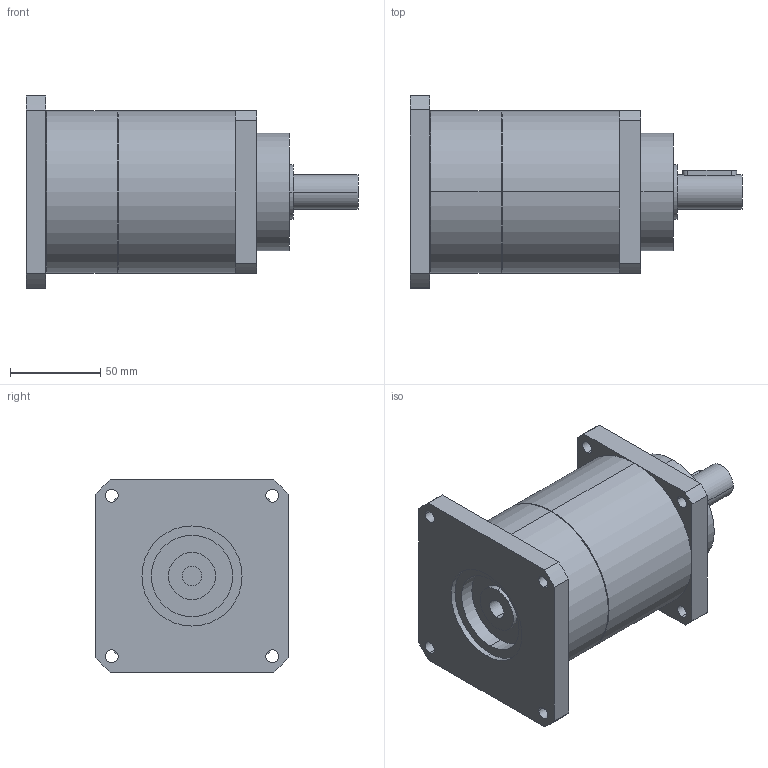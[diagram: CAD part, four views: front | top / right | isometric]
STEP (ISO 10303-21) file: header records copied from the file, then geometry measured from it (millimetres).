
FILE_DESCRIPTION(('CoCreate Modeling STEP Export'),'2;1');
FILE_NAME('GPT90_ig-9-12-16-20-25-28-35-40-50-70-100_19_B5T_11_P02.stp','2015-02-04T11:24:01',(''),(''),'CoCreate Modeling STEP processor for AP214 (Solid Model)','CoCreate Modeling 16.00C 25-Feb-2009 (C) Parametric Technology GmbH','');
FILE_SCHEMA(('AUTOMOTIVE_DESIGN { 1 0 10303 214 1 1 1 1 }'));
Length unit declared in the file: millimetre
Products named in the file (2): GPT90_ig-9-12-16-20-25-28-35-40-50-70-100_19_B5T_11_P02
Assembly tree (1 placements, depth 2):
  GPT90_ig-9-12-16-20-25-28-35-40-50-70-100_19_B5T_11_P02
    GPT90_ig-9-12-16-20-25-28-35-40-50-70-100_19_B5T_11_P02
Bounding box: 184 x 106.5 x 106.5 mm (x, y, z)
Volume: 934048.4 mm3; surface area: 75584.5 mm2
Topology: 1 solids, 1 shells, 77 faces, 206 edges, 141 vertices
Faces by surface type: cylinder 46, plane 27, cone 4
Entity records: 2596 total; most frequent: CARTESIAN_POINT 742, ORIENTED_EDGE 412, DIRECTION 324, EDGE_CURVE 206, VERTEX_POINT 141, AXIS2_PLACEMENT_3D 120, EDGE_LOOP 103, VECTOR 84
